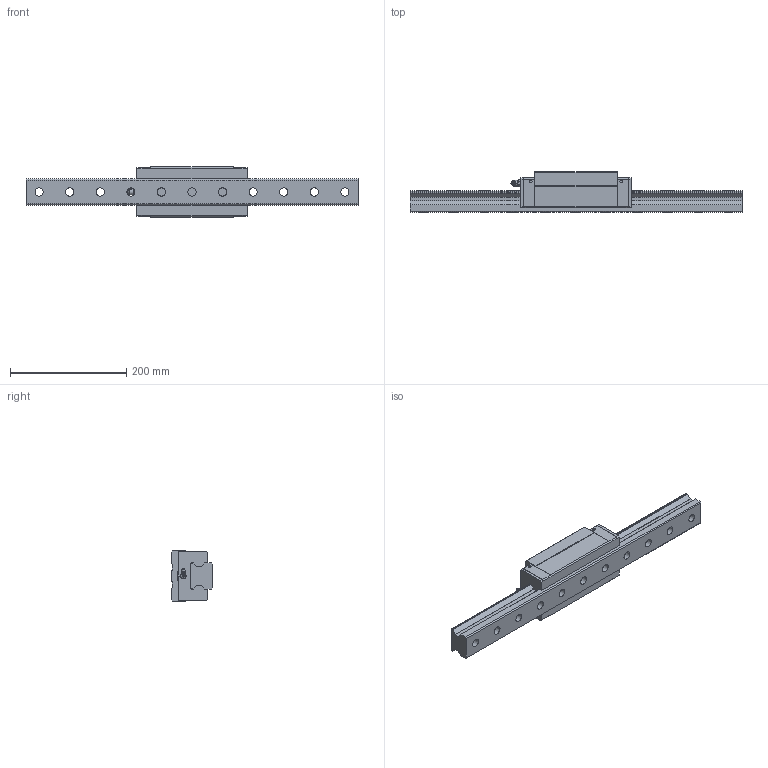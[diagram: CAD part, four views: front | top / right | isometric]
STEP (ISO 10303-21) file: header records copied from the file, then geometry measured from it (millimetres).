
FILE_DESCRIPTION(/* description */ ('STEP AP203'),/* implementation_level */ '2;1');
FILE_NAME(/* name */ 'SRG45LR1SS-570LH_G22-5_0_B-PT18_190_0_0_0_1',/* time_stamp */ '2024-05-23T10:22:16+02:00',/* author */ ('License CC BY-ND 4.0'),/* organization */ ('CADENAS'),/* preprocessor_version */ 'ST-DEVELOPER v19.3',/* originating_system */ 'PARTsolutions',/* authorisation */ ' ');
FILE_SCHEMA (('CONFIG_CONTROL_DESIGN'));
Length unit declared in the file: millimetre
Products named in the file (4): SRG45LR1SS-570LH_G22-5_0_B-PT18_190_0_0_0_1; SRG45LR57022.54 Track; SRG45LRSSB-PT1/81 Slide25-55; SRG-B-PT1/8_grease_nipple_joint
Assembly tree (3 placements, depth 2):
  SRG45LR1SS-570LH_G22-5_0_B-PT18_190_0_0_0_1
    SRG45LR57022.54 Track
    SRG45LRSSB-PT1/81 Slide25-55
    SRG-B-PT1/8_grease_nipple_joint
Bounding box: 570 x 70 x 86 mm (x, y, z)
Volume: 1486589.9 mm3; surface area: 200049.2 mm2
Topology: 3 solids, 3 shells, 214 faces, 535 edges, 348 vertices
Faces by surface type: plane 140, cylinder 47, cone 22, torus 3, sphere 2
Full cylindrical faces by diameter (mm): 5.2 x4, 8.376 x6, 9.6 x1, 10.2 x2, 14 x11, 20 x11
Entity records: 6156 total; most frequent: CARTESIAN_POINT 1149, DIRECTION 990, ORIENTED_EDGE 922, EDGE_CURVE 461, VERTEX_POINT 342, AXIS2_PLACEMENT_3D 338, FACE_BOUND 325, EDGE_LOOP 319
